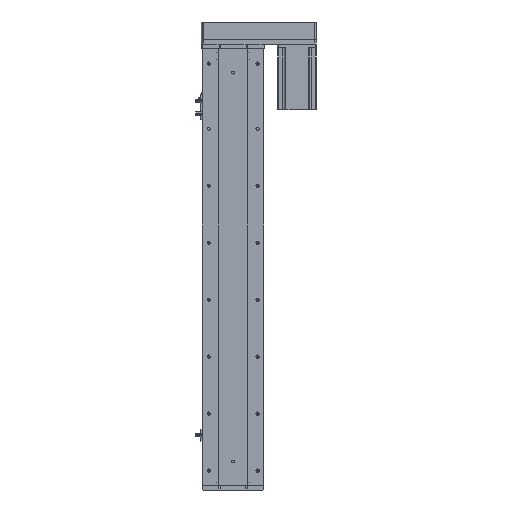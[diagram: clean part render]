
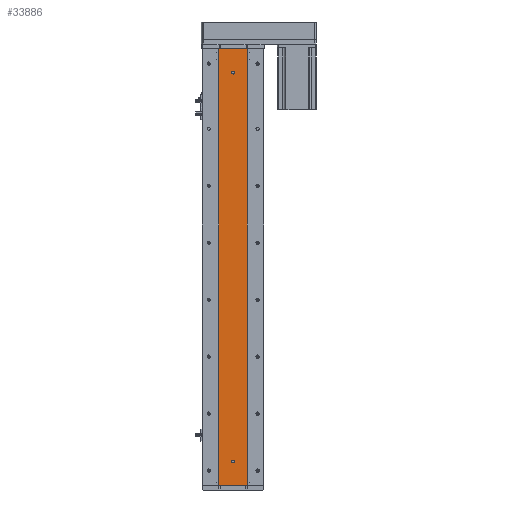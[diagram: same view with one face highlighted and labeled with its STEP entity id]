
A CAD part, left-side view. The second image highlights one B-rep face of the part: STEP entity #33886.
In plain terms, the highlighted planar face has unit normal (-1, 0, 0).
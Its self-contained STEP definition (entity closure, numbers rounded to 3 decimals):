
#1107 = DIRECTION ( 'NONE',  ( 0., -1., 0. ) ) ;
#1479 = CIRCLE ( 'NONE', #24906, 3. ) ;
#1918 = CIRCLE ( 'NONE', #26233, 3. ) ;
#2006 = CARTESIAN_POINT ( 'NONE',  ( -24.994, 0., 50. ) ) ;
#2330 = ORIENTED_EDGE ( 'NONE', *, *, #13877, .T. ) ;
#2509 = VERTEX_POINT ( 'NONE', #2947 ) ;
#2947 = CARTESIAN_POINT ( 'NONE',  ( -24.994, 29.785, 0. ) ) ;
#2957 = CARTESIAN_POINT ( 'NONE',  ( -24.994, 0., 869. ) ) ;
#3086 = ORIENTED_EDGE ( 'NONE', *, *, #9294, .F. ) ;
#3385 = ORIENTED_EDGE ( 'NONE', *, *, #10156, .F. ) ;
#3606 = VECTOR ( 'NONE', #43402, 1000. ) ;
#4914 = VERTEX_POINT ( 'NONE', #25908 ) ;
#5489 = DIRECTION ( 'NONE',  ( 0., 0., 1. ) ) ;
#6150 = ORIENTED_EDGE ( 'NONE', *, *, #40950, .F. ) ;
#6452 = DIRECTION ( 'NONE',  ( 0., 0., 1. ) ) ;
#7019 = VERTEX_POINT ( 'NONE', #12992 ) ;
#7645 = FACE_BOUND ( 'NONE', #30795, .T. ) ;
#7757 = AXIS2_PLACEMENT_3D ( 'NONE', #14603, #39155, #18138 ) ;
#9180 = DIRECTION ( 'NONE',  ( -1., 0., 0. ) ) ;
#9294 = EDGE_CURVE ( 'NONE', #7019, #20621, #1918, .T. ) ;
#9619 = CARTESIAN_POINT ( 'NONE',  ( -24.994, 0., 53. ) ) ;
#10156 = EDGE_CURVE ( 'NONE', #11933, #37629, #12153, .T. ) ;
#10198 = VECTOR ( 'NONE', #1107, 1000. ) ;
#10328 = DIRECTION ( 'NONE',  ( 1., 0., 0. ) ) ;
#11933 = VERTEX_POINT ( 'NONE', #9619 ) ;
#12153 = CIRCLE ( 'NONE', #7757, 3. ) ;
#12992 = CARTESIAN_POINT ( 'NONE',  ( -24.994, 0., 866. ) ) ;
#13877 = EDGE_CURVE ( 'NONE', #2509, #15355, #14029, .T. ) ;
#13985 = EDGE_CURVE ( 'NONE', #37629, #11933, #1479, .T. ) ;
#14029 = LINE ( 'NONE', #36334, #10198 ) ;
#14603 = CARTESIAN_POINT ( 'NONE',  ( -24.994, 0., 50. ) ) ;
#15355 = VERTEX_POINT ( 'NONE', #41689 ) ;
#15888 = ORIENTED_EDGE ( 'NONE', *, *, #26778, .T. ) ;
#16754 = CARTESIAN_POINT ( 'NONE',  ( -24.994, -29.785, 919. ) ) ;
#17328 = CIRCLE ( 'NONE', #39489, 3. ) ;
#18138 = DIRECTION ( 'NONE',  ( 0., 0., 1. ) ) ;
#18275 = LINE ( 'NONE', #38903, #42982 ) ;
#18856 = CARTESIAN_POINT ( 'NONE',  ( -24.994, -29.785, 919. ) ) ;
#20621 = VERTEX_POINT ( 'NONE', #28427 ) ;
#22096 = CARTESIAN_POINT ( 'NONE',  ( -24.994, 0., 47. ) ) ;
#23320 = LINE ( 'NONE', #18856, #3606 ) ;
#23400 = VERTEX_POINT ( 'NONE', #16754 ) ;
#23486 = ORIENTED_EDGE ( 'NONE', *, *, #13985, .F. ) ;
#24109 = PLANE ( 'NONE',  #33840 ) ;
#24297 = EDGE_CURVE ( 'NONE', #23400, #15355, #23320, .T. ) ;
#24499 = ORIENTED_EDGE ( 'NONE', *, *, #24297, .F. ) ;
#24906 = AXIS2_PLACEMENT_3D ( 'NONE', #2006, #26485, #5489 ) ;
#25908 = CARTESIAN_POINT ( 'NONE',  ( -24.994, 29.785, 919. ) ) ;
#26232 = EDGE_LOOP ( 'NONE', ( #2330, #24499, #33831, #15888 ) ) ;
#26233 = AXIS2_PLACEMENT_3D ( 'NONE', #30200, #9180, #33706 ) ;
#26485 = DIRECTION ( 'NONE',  ( -1., 0., 0. ) ) ;
#26778 = EDGE_CURVE ( 'NONE', #4914, #2509, #18275, .T. ) ;
#27491 = DIRECTION ( 'NONE',  ( -1., 0., 0. ) ) ;
#28427 = CARTESIAN_POINT ( 'NONE',  ( -24.994, 0., 872. ) ) ;
#28498 = DIRECTION ( 'NONE',  ( 0., 0., -1. ) ) ;
#30200 = CARTESIAN_POINT ( 'NONE',  ( -24.994, 0., 869. ) ) ;
#30581 = EDGE_LOOP ( 'NONE', ( #3385, #23486 ) ) ;
#30795 = EDGE_LOOP ( 'NONE', ( #6150, #3086 ) ) ;
#31322 = CARTESIAN_POINT ( 'NONE',  ( -24.994, 29.785, 919. ) ) ;
#31643 = VECTOR ( 'NONE', #44611, 1000. ) ;
#33706 = DIRECTION ( 'NONE',  ( 0., 0., 1. ) ) ;
#33831 = ORIENTED_EDGE ( 'NONE', *, *, #45159, .F. ) ;
#33840 = AXIS2_PLACEMENT_3D ( 'NONE', #31322, #10328, #34860 ) ;
#33886 = ADVANCED_FACE ( 'NONE', ( #7645, #35645, #34529 ), #24109, .F. ) ;
#34529 = FACE_OUTER_BOUND ( 'NONE', #26232, .T. ) ;
#34860 = DIRECTION ( 'NONE',  ( 0., 0., -1. ) ) ;
#35645 = FACE_BOUND ( 'NONE', #30581, .T. ) ;
#36334 = CARTESIAN_POINT ( 'NONE',  ( -24.994, 29.785, 0. ) ) ;
#37629 = VERTEX_POINT ( 'NONE', #22096 ) ;
#38903 = CARTESIAN_POINT ( 'NONE',  ( -24.994, 29.785, 919. ) ) ;
#39155 = DIRECTION ( 'NONE',  ( -1., 0., 0. ) ) ;
#39489 = AXIS2_PLACEMENT_3D ( 'NONE', #2957, #27491, #6452 ) ;
#40950 = EDGE_CURVE ( 'NONE', #20621, #7019, #17328, .T. ) ;
#41025 = LINE ( 'NONE', #44468, #31643 ) ;
#41689 = CARTESIAN_POINT ( 'NONE',  ( -24.994, -29.785, 0. ) ) ;
#42982 = VECTOR ( 'NONE', #28498, 1000. ) ;
#43402 = DIRECTION ( 'NONE',  ( 0., 0., -1. ) ) ;
#44468 = CARTESIAN_POINT ( 'NONE',  ( -24.994, 29.785, 919. ) ) ;
#44611 = DIRECTION ( 'NONE',  ( 0., -1., 0. ) ) ;
#45159 = EDGE_CURVE ( 'NONE', #4914, #23400, #41025, .T. ) ;
